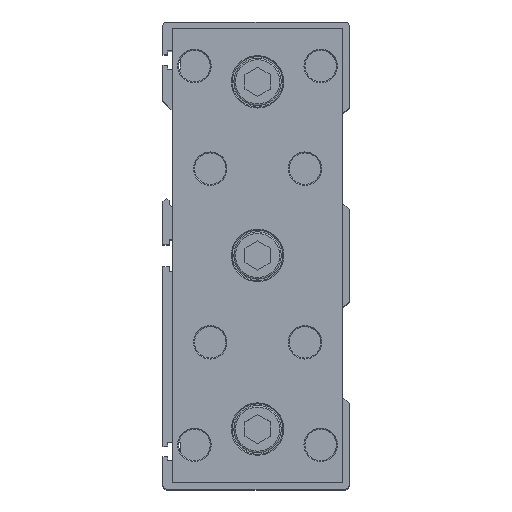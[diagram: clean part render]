
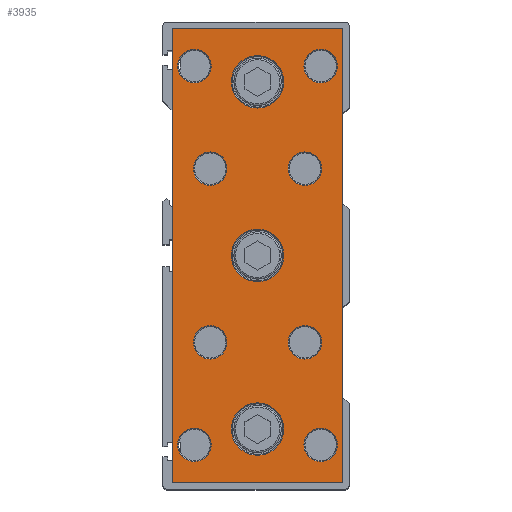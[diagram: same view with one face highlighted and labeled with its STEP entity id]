
A CAD part, top view. The second image highlights one B-rep face of the part: STEP entity #3935.
In plain terms, the highlighted planar face has unit normal (0, 0, 1).
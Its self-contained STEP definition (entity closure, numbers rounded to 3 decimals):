
#3578=CARTESIAN_POINT('',(27.,72.,17.0));
#3579=VERTEX_POINT('',#3578);
#3580=CARTESIAN_POINT('',(27.,-72.,17.0));
#3581=VERTEX_POINT('',#3580);
#3582=CARTESIAN_POINT('',(27.,72.,17.0));
#3583=DIRECTION('',(0.0,-1.0,0.0));
#3584=VECTOR('',#3583,144.);
#3585=LINE('',#3582,#3584);
#3586=EDGE_CURVE('',#3579,#3581,#3585,.T.);
#3712=CARTESIAN_POINT('',(-27.,-72.,17.0));
#3713=VERTEX_POINT('',#3712);
#3714=CARTESIAN_POINT('',(-27.,72.,17.0));
#3715=VERTEX_POINT('',#3714);
#3716=CARTESIAN_POINT('',(-27.,-72.,17.0));
#3717=DIRECTION('',(0.0,1.0,0.0));
#3718=VECTOR('',#3717,144.);
#3719=LINE('',#3716,#3718);
#3720=EDGE_CURVE('',#3713,#3715,#3719,.T.);
#3789=CARTESIAN_POINT('',(8.3,0.,17.0));
#3790=VERTEX_POINT('',#3789);
#3791=CARTESIAN_POINT('',(0.0,0.0,17.0));
#3792=DIRECTION('',(0.0,0.0,1.0));
#3793=DIRECTION('',(-1.0,0.0,0.0));
#3794=AXIS2_PLACEMENT_3D('',#3791,#3792,#3793);
#3795=CIRCLE('',#3794,8.3);
#3796=EDGE_CURVE('',#3790,#3790,#3795,.T.);
#3801=CARTESIAN_POINT('',(0.0,0.0,17.0));
#3802=DIRECTION('',(0.0,0.0,1.0));
#3803=DIRECTION('',(1.0,0.0,0.0));
#3804=AXIS2_PLACEMENT_3D('',#3801,#3802,#3803);
#3805=PLANE('',#3804);
#3806=ORIENTED_EDGE('',*,*,#3586,.F.);
#3807=CARTESIAN_POINT('',(-27.,72.,17.0));
#3808=DIRECTION('',(1.0,0.0,0.0));
#3809=VECTOR('',#3808,54.);
#3810=LINE('',#3807,#3809);
#3811=EDGE_CURVE('',#3715,#3579,#3810,.T.);
#3812=ORIENTED_EDGE('',*,*,#3811,.F.);
#3813=ORIENTED_EDGE('',*,*,#3720,.F.);
#3814=CARTESIAN_POINT('',(27.,-72.,17.0));
#3815=DIRECTION('',(-1.0,0.0,0.0));
#3816=VECTOR('',#3815,54.);
#3817=LINE('',#3814,#3816);
#3818=EDGE_CURVE('',#3581,#3713,#3817,.T.);
#3819=ORIENTED_EDGE('',*,*,#3818,.F.);
#3820=EDGE_LOOP('',(#3806,#3812,#3813,#3819));
#3821=FACE_OUTER_BOUND('',#3820,.T.);
#3822=CARTESIAN_POINT('',(8.3,-55.0,17.0));
#3823=VERTEX_POINT('',#3822);
#3824=CARTESIAN_POINT('',(0.0,-55.0,17.0));
#3825=DIRECTION('',(0.0,0.0,1.0));
#3826=DIRECTION('',(-1.0,0.0,0.0));
#3827=AXIS2_PLACEMENT_3D('',#3824,#3825,#3826);
#3828=CIRCLE('',#3827,8.3);
#3829=EDGE_CURVE('',#3823,#3823,#3828,.T.);
#3830=ORIENTED_EDGE('',*,*,#3829,.F.);
#3831=EDGE_LOOP('',(#3830));
#3832=FACE_BOUND('',#3831,.T.);
#3833=CARTESIAN_POINT('',(25.3,-60.0,17.0));
#3834=VERTEX_POINT('',#3833);
#3835=CARTESIAN_POINT('',(20.0,-60.0,17.0));
#3836=DIRECTION('',(0.0,0.0,1.0));
#3837=DIRECTION('',(-1.0,0.0,0.0));
#3838=AXIS2_PLACEMENT_3D('',#3835,#3836,#3837);
#3839=CIRCLE('',#3838,5.3);
#3840=EDGE_CURVE('',#3834,#3834,#3839,.T.);
#3841=ORIENTED_EDGE('',*,*,#3840,.F.);
#3842=EDGE_LOOP('',(#3841));
#3843=FACE_BOUND('',#3842,.T.);
#3844=CARTESIAN_POINT('',(25.3,60.0,17.0));
#3845=VERTEX_POINT('',#3844);
#3846=CARTESIAN_POINT('',(20.0,60.0,17.0));
#3847=DIRECTION('',(0.0,0.0,1.0));
#3848=DIRECTION('',(-1.0,0.0,0.0));
#3849=AXIS2_PLACEMENT_3D('',#3846,#3847,#3848);
#3850=CIRCLE('',#3849,5.3);
#3851=EDGE_CURVE('',#3845,#3845,#3850,.T.);
#3852=ORIENTED_EDGE('',*,*,#3851,.F.);
#3853=EDGE_LOOP('',(#3852));
#3854=FACE_BOUND('',#3853,.T.);
#3855=CARTESIAN_POINT('',(-14.7,-60.0,17.0));
#3856=VERTEX_POINT('',#3855);
#3857=CARTESIAN_POINT('',(-20.0,-60.0,17.0));
#3858=DIRECTION('',(0.0,0.0,1.0));
#3859=DIRECTION('',(-1.0,0.0,0.0));
#3860=AXIS2_PLACEMENT_3D('',#3857,#3858,#3859);
#3861=CIRCLE('',#3860,5.3);
#3862=EDGE_CURVE('',#3856,#3856,#3861,.T.);
#3863=ORIENTED_EDGE('',*,*,#3862,.F.);
#3864=EDGE_LOOP('',(#3863));
#3865=FACE_BOUND('',#3864,.T.);
#3866=CARTESIAN_POINT('',(-9.7,27.5,17.0));
#3867=VERTEX_POINT('',#3866);
#3868=CARTESIAN_POINT('',(-15.0,27.5,17.0));
#3869=DIRECTION('',(0.0,0.0,1.0));
#3870=DIRECTION('',(-1.0,0.0,0.0));
#3871=AXIS2_PLACEMENT_3D('',#3868,#3869,#3870);
#3872=CIRCLE('',#3871,5.3);
#3873=EDGE_CURVE('',#3867,#3867,#3872,.T.);
#3874=ORIENTED_EDGE('',*,*,#3873,.F.);
#3875=EDGE_LOOP('',(#3874));
#3876=FACE_BOUND('',#3875,.T.);
#3877=CARTESIAN_POINT('',(-14.7,60.0,17.0));
#3878=VERTEX_POINT('',#3877);
#3879=CARTESIAN_POINT('',(-20.0,60.0,17.0));
#3880=DIRECTION('',(0.0,0.0,1.0));
#3881=DIRECTION('',(-1.0,0.0,0.0));
#3882=AXIS2_PLACEMENT_3D('',#3879,#3880,#3881);
#3883=CIRCLE('',#3882,5.3);
#3884=EDGE_CURVE('',#3878,#3878,#3883,.T.);
#3885=ORIENTED_EDGE('',*,*,#3884,.F.);
#3886=EDGE_LOOP('',(#3885));
#3887=FACE_BOUND('',#3886,.T.);
#3888=CARTESIAN_POINT('',(-9.7,-27.5,17.0));
#3889=VERTEX_POINT('',#3888);
#3890=CARTESIAN_POINT('',(-15.0,-27.5,17.0));
#3891=DIRECTION('',(0.0,0.0,1.0));
#3892=DIRECTION('',(-1.0,0.0,0.0));
#3893=AXIS2_PLACEMENT_3D('',#3890,#3891,#3892);
#3894=CIRCLE('',#3893,5.3);
#3895=EDGE_CURVE('',#3889,#3889,#3894,.T.);
#3896=ORIENTED_EDGE('',*,*,#3895,.F.);
#3897=EDGE_LOOP('',(#3896));
#3898=FACE_BOUND('',#3897,.T.);
#3899=CARTESIAN_POINT('',(20.3,-27.5,17.0));
#3900=VERTEX_POINT('',#3899);
#3901=CARTESIAN_POINT('',(15.0,-27.5,17.0));
#3902=DIRECTION('',(0.0,0.0,1.0));
#3903=DIRECTION('',(-1.0,0.0,0.0));
#3904=AXIS2_PLACEMENT_3D('',#3901,#3902,#3903);
#3905=CIRCLE('',#3904,5.3);
#3906=EDGE_CURVE('',#3900,#3900,#3905,.T.);
#3907=ORIENTED_EDGE('',*,*,#3906,.F.);
#3908=EDGE_LOOP('',(#3907));
#3909=FACE_BOUND('',#3908,.T.);
#3910=CARTESIAN_POINT('',(20.3,27.5,17.0));
#3911=VERTEX_POINT('',#3910);
#3912=CARTESIAN_POINT('',(15.0,27.5,17.0));
#3913=DIRECTION('',(0.0,0.0,1.0));
#3914=DIRECTION('',(-1.0,0.0,0.0));
#3915=AXIS2_PLACEMENT_3D('',#3912,#3913,#3914);
#3916=CIRCLE('',#3915,5.3);
#3917=EDGE_CURVE('',#3911,#3911,#3916,.T.);
#3918=ORIENTED_EDGE('',*,*,#3917,.F.);
#3919=EDGE_LOOP('',(#3918));
#3920=FACE_BOUND('',#3919,.T.);
#3921=CARTESIAN_POINT('',(8.3,55.0,17.0));
#3922=VERTEX_POINT('',#3921);
#3923=CARTESIAN_POINT('',(0.0,55.0,17.0));
#3924=DIRECTION('',(0.0,0.0,1.0));
#3925=DIRECTION('',(-1.0,0.0,0.0));
#3926=AXIS2_PLACEMENT_3D('',#3923,#3924,#3925);
#3927=CIRCLE('',#3926,8.3);
#3928=EDGE_CURVE('',#3922,#3922,#3927,.T.);
#3929=ORIENTED_EDGE('',*,*,#3928,.F.);
#3930=EDGE_LOOP('',(#3929));
#3931=FACE_BOUND('',#3930,.T.);
#3932=ORIENTED_EDGE('',*,*,#3796,.F.);
#3933=EDGE_LOOP('',(#3932));
#3934=FACE_BOUND('',#3933,.T.);
#3935=ADVANCED_FACE('',(#3821,#3832,#3843,#3854,#3865,#3876,#3887,#3898,#3909,#3920,#3931,#3934),#3805,.T.);
